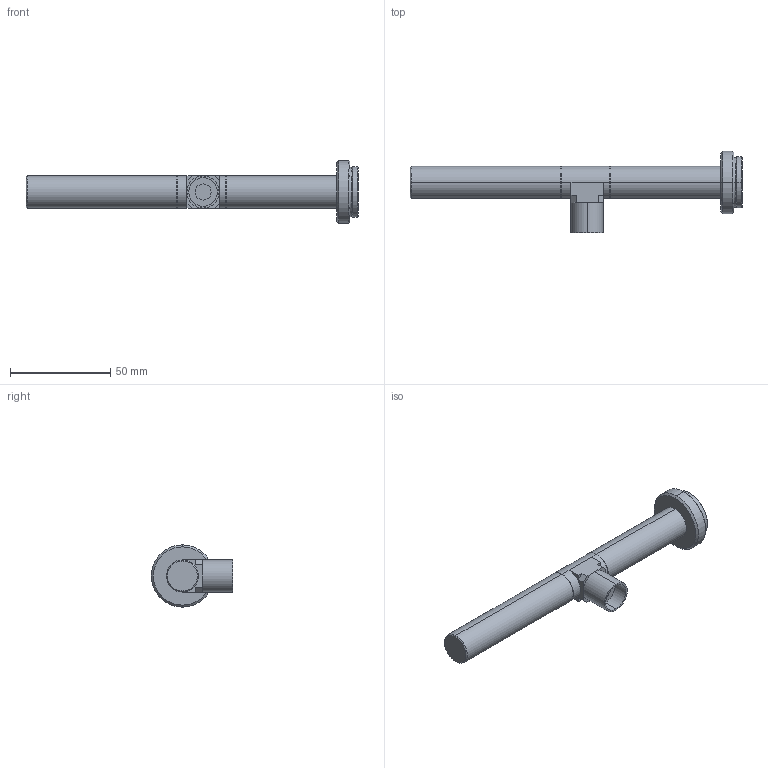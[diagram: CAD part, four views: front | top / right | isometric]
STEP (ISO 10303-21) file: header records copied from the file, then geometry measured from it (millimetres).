
FILE_DESCRIPTION (( 'STEP AP203' ), '1' );
FILE_NAME ('VS-TC2-220CO-16.STEP', '2017-04-28T08:14:48', ( 'miura_vst' ), ( '' ), 'SwSTEP 2.0', 'SolidWorks 2017', '' );
FILE_SCHEMA (( 'CONFIG_CONTROL_DESIGN' ));
Length unit declared in the file: millimetre
Products named in the file (1): VS-TC2-220CO-16
Bounding box: 165.38 x 40.5 x 31 mm (x, y, z)
Volume: 40322.2 mm3; surface area: 11725 mm2
Topology: 1 solids, 1 shells, 60 faces, 128 edges, 74 vertices
Faces by surface type: plane 23, cylinder 19, cone 18
Entity records: 1669 total; most frequent: DIRECTION 302, CARTESIAN_POINT 263, ORIENTED_EDGE 256, EDGE_CURVE 128, AXIS2_PLACEMENT_3D 113, LINE 76, VECTOR 76, VERTEX_POINT 74
